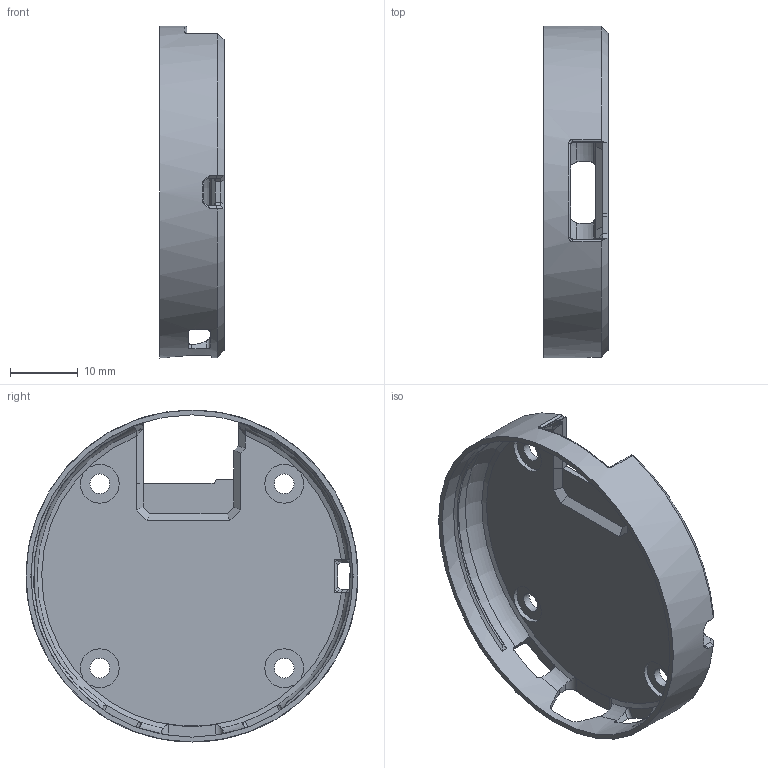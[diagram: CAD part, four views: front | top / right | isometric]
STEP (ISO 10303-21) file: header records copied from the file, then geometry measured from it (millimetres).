
FILE_DESCRIPTION(/* description */ (''),/* implementation_level */ '2;1');
FILE_NAME(/* name */ 'motor_lid_V6.1.step',/* time_stamp */ '2026-04-11T00:30:10+08:00',/* author */ (''),/* organization */ (''),/* preprocessor_version */ 'ST-DEVELOPER v20.1',/* originating_system */ 'Autodesk Translation Framework v14.24.0.0',/* authorisation */ '');
FILE_SCHEMA (('AUTOMOTIVE_DESIGN { 1 0 10303 214 3 1 1 }'));
Products named in the file (1): 盖子
Bounding box: 9.47 x 49 x 49 mm (x, y, z)
Volume: 3653.2 mm3; surface area: 5955 mm2
Topology: 1 solids, 1 shells, 1245 faces, 3567 edges, 2366 vertices
Faces by surface type: bspline 968, plane 230, cylinder 29, cone 10, torus 8
Full cylindrical faces by diameter (mm): 2.9 x4, 5.727 x4, 47.568 x1, 49 x1
Entity records: 51504 total; most frequent: CARTESIAN_POINT 25806, ORIENTED_EDGE 7134, EDGE_CURVE 3567, VERTEX_POINT 2366, DIRECTION 2155, B_SPLINE_CURVE_WITH_KNOTS 2040, LINE 1415, VECTOR 1415
